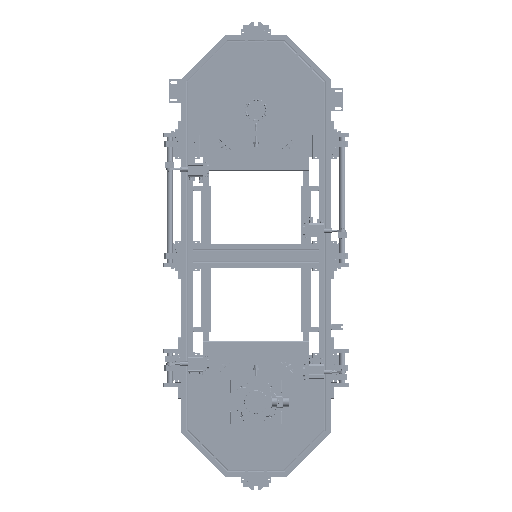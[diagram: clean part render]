
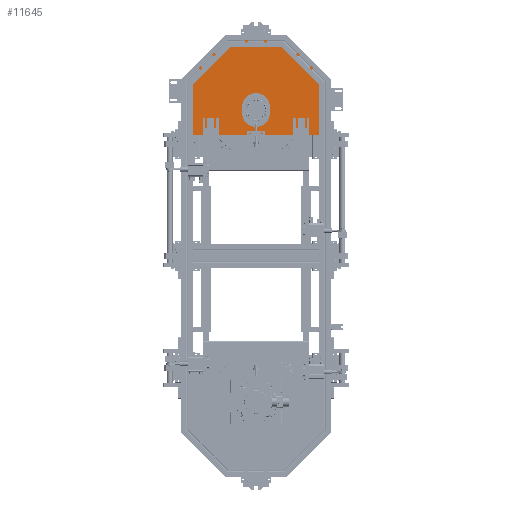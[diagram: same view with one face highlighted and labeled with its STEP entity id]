
A CAD part, front view. The second image highlights one B-rep face of the part: STEP entity #11645.
In plain terms, the highlighted planar face has unit normal (0, -1, 0) as drawn and (0, 0, -1) by its records, which use the part's own axes.
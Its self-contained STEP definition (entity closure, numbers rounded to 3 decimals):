
#78 = VECTOR ( 'NONE', #92711, 1000. ) ;
#1321 = EDGE_CURVE ( 'NONE', #2325, #75806, #11597, .T. ) ;
#2325 = VERTEX_POINT ( 'NONE', #103559 ) ;
#2720 = CARTESIAN_POINT ( 'NONE',  ( 190.21, 0., 0. ) ) ;
#3472 = DIRECTION ( 'NONE',  ( 1., 0., 0. ) ) ;
#5379 = VERTEX_POINT ( 'NONE', #150827 ) ;
#5528 = EDGE_CURVE ( 'NONE', #159177, #55554, #32761, .T. ) ;
#6532 = ORIENTED_EDGE ( 'NONE', *, *, #167240, .T. ) ;
#9414 = DIRECTION ( 'NONE',  ( 0.707, 0.707, 0. ) ) ;
#9628 = CARTESIAN_POINT ( 'NONE',  ( 94.94, 254., 0. ) ) ;
#9939 = CARTESIAN_POINT ( 'NONE',  ( 94.94, 301.5, 0. ) ) ;
#11597 = LINE ( 'NONE', #98572, #52987 ) ;
#11645 = ADVANCED_FACE ( 'NONE', ( #168230, #20281 ), #114075, .T. ) ;
#15327 = ORIENTED_EDGE ( 'NONE', *, *, #109132, .T. ) ;
#17469 = DIRECTION ( 'NONE',  ( -1., 0., 0. ) ) ;
#20281 = FACE_OUTER_BOUND ( 'NONE', #165886, .T. ) ;
#21432 = VECTOR ( 'NONE', #150936, 1000. ) ;
#29319 = AXIS2_PLACEMENT_3D ( 'NONE', #142039, #169316, #86701 ) ;
#32761 = CIRCLE ( 'NONE', #140473, 47.5 ) ;
#37237 = CARTESIAN_POINT ( 'NONE',  ( 94.94, 206.5, 0. ) ) ;
#37983 = CARTESIAN_POINT ( 'NONE',  ( 339., 148.79, 0. ) ) ;
#41493 = CARTESIAN_POINT ( 'NONE',  ( 339., 359.21, 0. ) ) ;
#41629 = VECTOR ( 'NONE', #17469, 1000. ) ;
#44331 = EDGE_CURVE ( 'NONE', #124214, #74425, #51771, .T. ) ;
#51771 = LINE ( 'NONE', #81680, #21432 ) ;
#52987 = VECTOR ( 'NONE', #99152, 1000. ) ;
#55554 = VERTEX_POINT ( 'NONE', #151443 ) ;
#55742 = DIRECTION ( 'NONE',  ( 1., 0., 0. ) ) ;
#57140 = CARTESIAN_POINT ( 'NONE',  ( 0., 508., 0. ) ) ;
#57347 = EDGE_CURVE ( 'NONE', #74425, #2325, #106315, .T. ) ;
#57993 = VERTEX_POINT ( 'NONE', #148623 ) ;
#60034 = EDGE_LOOP ( 'NONE', ( #101589, #6532, #103368, #91259, #15327 ) ) ;
#62984 = CARTESIAN_POINT ( 'NONE',  ( 74.94, 301.5, 0. ) ) ;
#65696 = LINE ( 'NONE', #178415, #85322 ) ;
#67083 = ORIENTED_EDGE ( 'NONE', *, *, #1321, .F. ) ;
#71927 = ORIENTED_EDGE ( 'NONE', *, *, #112369, .F. ) ;
#74425 = VERTEX_POINT ( 'NONE', #130547 ) ;
#74925 = CIRCLE ( 'NONE', #109620, 47.5 ) ;
#75806 = VERTEX_POINT ( 'NONE', #79084 ) ;
#77873 = DIRECTION ( 'NONE',  ( 1., 0., 0. ) ) ;
#79084 = CARTESIAN_POINT ( 'NONE',  ( 0., 0., 0. ) ) ;
#81680 = CARTESIAN_POINT ( 'NONE',  ( 190.21, 508., 0. ) ) ;
#82061 = CARTESIAN_POINT ( 'NONE',  ( 94.94, 206.5, 0. ) ) ;
#83602 = EDGE_CURVE ( 'NONE', #136820, #159177, #159132, .T. ) ;
#85322 = VECTOR ( 'NONE', #96390, 1000. ) ;
#86642 = DIRECTION ( 'NONE',  ( 0., 0., 1. ) ) ;
#86701 = DIRECTION ( 'NONE',  ( -1., 0., 0. ) ) ;
#87006 = CARTESIAN_POINT ( 'NONE',  ( 74.94, 254., 0. ) ) ;
#91259 = ORIENTED_EDGE ( 'NONE', *, *, #5528, .T. ) ;
#92711 = DIRECTION ( 'NONE',  ( 1., 0., 0. ) ) ;
#96390 = DIRECTION ( 'NONE',  ( 0., 1., 0. ) ) ;
#98572 = CARTESIAN_POINT ( 'NONE',  ( 0., 0., 0. ) ) ;
#99152 = DIRECTION ( 'NONE',  ( 0., -1., 0. ) ) ;
#99786 = EDGE_CURVE ( 'NONE', #175698, #5379, #99999, .T. ) ;
#99999 = LINE ( 'NONE', #37983, #123986 ) ;
#101427 = CARTESIAN_POINT ( 'NONE',  ( 94.94, 301.5, 0. ) ) ;
#101589 = ORIENTED_EDGE ( 'NONE', *, *, #139466, .T. ) ;
#103368 = ORIENTED_EDGE ( 'NONE', *, *, #83602, .T. ) ;
#103559 = CARTESIAN_POINT ( 'NONE',  ( 0., 508., 0. ) ) ;
#106171 = ORIENTED_EDGE ( 'NONE', *, *, #44331, .F. ) ;
#106315 = LINE ( 'NONE', #57140, #143292 ) ;
#109132 = EDGE_CURVE ( 'NONE', #55554, #125047, #148274, .T. ) ;
#109620 = AXIS2_PLACEMENT_3D ( 'NONE', #171679, #86642, #169866 ) ;
#111011 = LINE ( 'NONE', #137946, #143592 ) ;
#112369 = EDGE_CURVE ( 'NONE', #5379, #124214, #65696, .T. ) ;
#114075 = PLANE ( 'NONE',  #29319 ) ;
#116759 = DIRECTION ( 'NONE',  ( 0., 0., 1. ) ) ;
#118647 = DIRECTION ( 'NONE',  ( 0., 0., 1. ) ) ;
#123986 = VECTOR ( 'NONE', #9414, 1000. ) ;
#124214 = VERTEX_POINT ( 'NONE', #41493 ) ;
#125047 = VERTEX_POINT ( 'NONE', #82061 ) ;
#130547 = CARTESIAN_POINT ( 'NONE',  ( 190.21, 508., 0. ) ) ;
#133516 = EDGE_CURVE ( 'NONE', #75806, #175698, #111011, .T. ) ;
#136820 = VERTEX_POINT ( 'NONE', #9939 ) ;
#137946 = CARTESIAN_POINT ( 'NONE',  ( 190.21, 0., 0. ) ) ;
#139466 = EDGE_CURVE ( 'NONE', #125047, #57993, #74925, .T. ) ;
#140473 = AXIS2_PLACEMENT_3D ( 'NONE', #87006, #116759, #3472 ) ;
#142039 = CARTESIAN_POINT ( 'NONE',  ( 0., 0., 0. ) ) ;
#143292 = VECTOR ( 'NONE', #153256, 1000. ) ;
#143592 = VECTOR ( 'NONE', #55742, 1000. ) ;
#148188 = ORIENTED_EDGE ( 'NONE', *, *, #133516, .F. ) ;
#148274 = LINE ( 'NONE', #37237, #78 ) ;
#148623 = CARTESIAN_POINT ( 'NONE',  ( 142.44, 254., 0. ) ) ;
#150827 = CARTESIAN_POINT ( 'NONE',  ( 339., 148.79, 0. ) ) ;
#150936 = DIRECTION ( 'NONE',  ( -0.707, 0.707, 0. ) ) ;
#151443 = CARTESIAN_POINT ( 'NONE',  ( 74.94, 206.5, 0. ) ) ;
#153256 = DIRECTION ( 'NONE',  ( -1., 0., 0. ) ) ;
#158863 = CIRCLE ( 'NONE', #166087, 47.5 ) ;
#159132 = LINE ( 'NONE', #101427, #41629 ) ;
#159177 = VERTEX_POINT ( 'NONE', #62984 ) ;
#165886 = EDGE_LOOP ( 'NONE', ( #148188, #67083, #176903, #106171, #71927, #167327 ) ) ;
#166087 = AXIS2_PLACEMENT_3D ( 'NONE', #9628, #118647, #77873 ) ;
#167240 = EDGE_CURVE ( 'NONE', #57993, #136820, #158863, .T. ) ;
#167327 = ORIENTED_EDGE ( 'NONE', *, *, #99786, .F. ) ;
#168230 = FACE_BOUND ( 'NONE', #60034, .T. ) ;
#169316 = DIRECTION ( 'NONE',  ( 0., 0., -1. ) ) ;
#169866 = DIRECTION ( 'NONE',  ( 1., 0., 0. ) ) ;
#171679 = CARTESIAN_POINT ( 'NONE',  ( 94.94, 254., 0. ) ) ;
#175698 = VERTEX_POINT ( 'NONE', #2720 ) ;
#176903 = ORIENTED_EDGE ( 'NONE', *, *, #57347, .F. ) ;
#178415 = CARTESIAN_POINT ( 'NONE',  ( 339., 359.21, 0. ) ) ;
